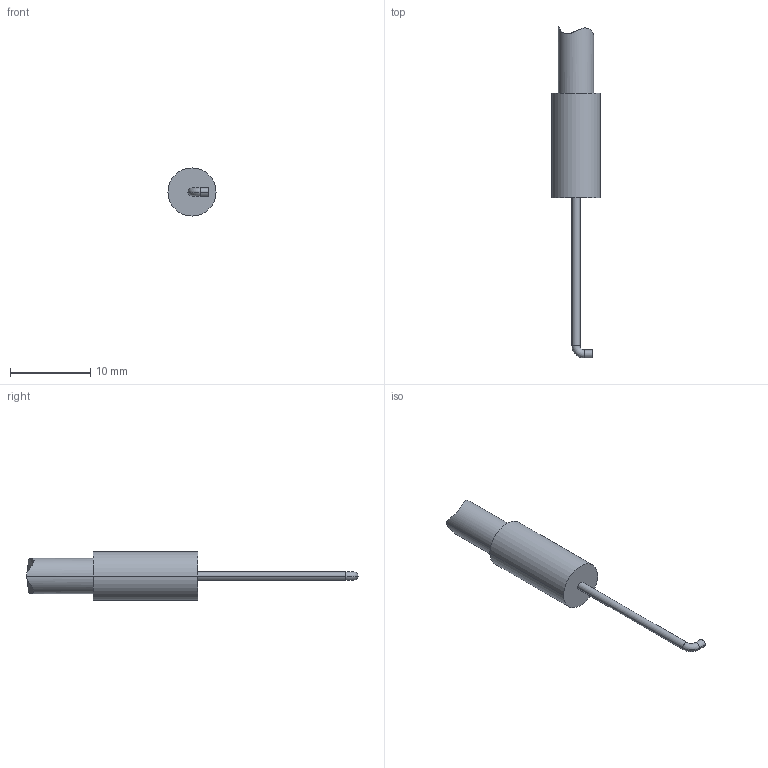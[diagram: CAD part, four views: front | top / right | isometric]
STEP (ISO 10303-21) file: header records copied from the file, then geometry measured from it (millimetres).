
FILE_DESCRIPTION((''),'2;1');
FILE_NAME('0000366380_PRT','2021-03-04T13:38:16',('pdmservice'),(''),'CREO PARAMETRIC BY PTC INC, 2018420','CREO PARAMETRIC BY PTC INC, 2018420','');
FILE_SCHEMA(('AUTOMOTIVE_DESIGN { 1 0 10303 214 1 1 1 1 }'));
Length unit declared in the file: millimetre
Products named in the file (1): 0000366380_PRT
Bounding box: 6 x 41.41 x 6 mm (x, y, z)
Volume: 502.5 mm3; surface area: 477.8 mm2
Topology: 1 solids, 1 shells, 17 faces, 32 edges, 20 vertices
Faces by surface type: cylinder 10, plane 4, torus 2, extrusion 1
Entity records: 1562 total; most frequent: CARTESIAN_POINT 168, PROPERTY_DEFINITION 124, REPRESENTATION 123, PROPERTY_DEFINITION_REPRESENTATION 123, DESCRIPTIVE_REPRESENTATION_ITEM 110, GENERAL_PROPERTY 105, GENERAL_PROPERTY_ASSOCIATION 105, DIRECTION 83
